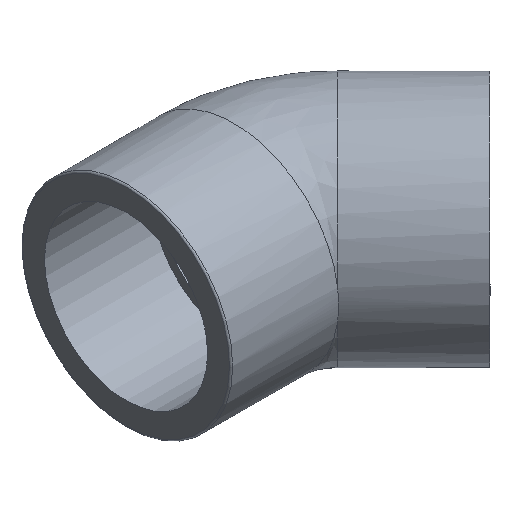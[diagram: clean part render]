
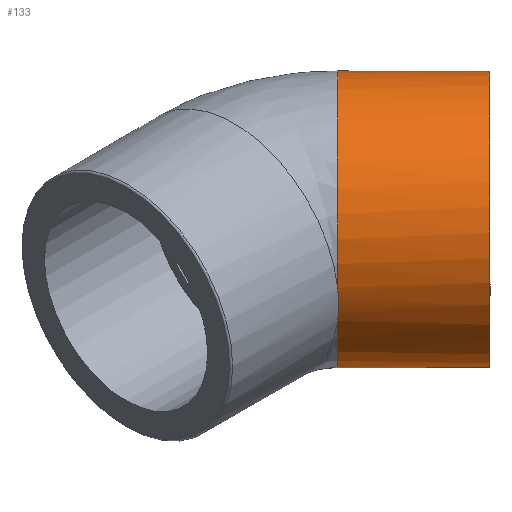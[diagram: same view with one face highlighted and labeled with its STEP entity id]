
A CAD part, isometric view. The second image highlights one B-rep face of the part: STEP entity #133.
In plain terms, the highlighted cylindrical face has radius 19.5 mm (diameter 39 mm), a full revolution.
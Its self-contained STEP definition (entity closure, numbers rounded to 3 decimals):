
#15=ELLIPSE('',#154,21.107,19.5);
#23=CYLINDRICAL_SURFACE('',#153,19.5);
#30=FACE_BOUND('',#58,.T.);
#41=FACE_OUTER_BOUND('',#57,.T.);
#57=EDGE_LOOP('',(#113,#114));
#58=EDGE_LOOP('',(#115));
#74=CIRCLE('',#152,19.5);
#75=CIRCLE('',#155,19.5);
#84=VERTEX_POINT('',#253);
#85=VERTEX_POINT('',#254);
#86=VERTEX_POINT('',#259);
#96=EDGE_CURVE('',#85,#84,#74,.T.);
#97=EDGE_CURVE('',#84,#85,#15,.T.);
#98=EDGE_CURVE('',#86,#86,#75,.T.);
#113=ORIENTED_EDGE('',*,*,#97,.F.);
#114=ORIENTED_EDGE('',*,*,#96,.F.);
#115=ORIENTED_EDGE('',*,*,#98,.T.);
#133=ADVANCED_FACE('',(#41,#30),#23,.T.);
#152=AXIS2_PLACEMENT_3D('',#256,#188,#189);
#153=AXIS2_PLACEMENT_3D('',#257,#190,#191);
#154=AXIS2_PLACEMENT_3D('',#258,#192,#193);
#155=AXIS2_PLACEMENT_3D('',#260,#194,#195);
#188=DIRECTION('center_axis',(-0.707,0.707,0.));
#189=DIRECTION('ref_axis',(0.,0.,-1.));
#190=DIRECTION('center_axis',(-0.707,0.707,0.));
#191=DIRECTION('ref_axis',(-0.707,-0.707,0.));
#192=DIRECTION('center_axis',(-0.924,0.383,0.));
#193=DIRECTION('ref_axis',(-0.383,-0.924,0.));
#194=DIRECTION('center_axis',(-0.707,0.707,0.));
#195=DIRECTION('ref_axis',(0.,0.,-1.));
#253=CARTESIAN_POINT('',(-8.,-19.314,-2.689));
#254=CARTESIAN_POINT('',(-8.,-19.314,2.689));
#256=CARTESIAN_POINT('Origin',(5.657,-5.657,0.));
#257=CARTESIAN_POINT('Origin',(12.728,-12.728,0.));
#258=CARTESIAN_POINT('Origin',(0.,0.,0.));
#259=CARTESIAN_POINT('',(6.01,-33.588,0.));
#260=CARTESIAN_POINT('Origin',(19.799,-19.799,0.));
